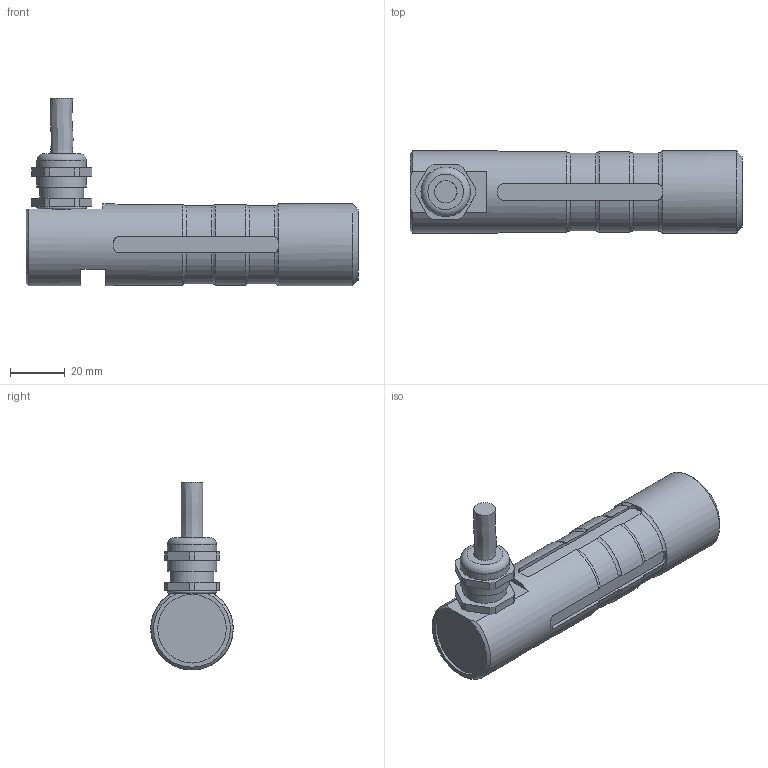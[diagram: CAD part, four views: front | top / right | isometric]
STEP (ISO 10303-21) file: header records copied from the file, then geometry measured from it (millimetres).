
FILE_DESCRIPTION(/* description */ ('Alibre Inc.'),/* implementation_level */ '2;1');
FILE_NAME(/* name */ 'export0',/* time_stamp */ '2012-11-12T08:21:17+01:00',/* author */ (''),/* organization */ (''),/* preprocessor_version */ 'ST-DEVELOPER v10',/* originating_system */ 'Alibre',/* authorisation */ '');
FILE_SCHEMA (('CONFIG_CONTROL_DESIGN'));
Length unit declared in the file: centimetre
Products named in the file (6): ID_1
Bounding box: 121 x 30 x 68.45 mm (x, y, z)
Volume: 84912.2 mm3; surface area: 17683.5 mm2
Topology: 4 solids, 4 shells, 165 faces, 434 edges, 285 vertices
Faces by surface type: plane 86, cylinder 57, torus 18, cone 3, bspline 1
Full cylindrical faces by diameter (mm): 8 x1, 14.376 x1, 16 x2, 18 x2, 25 x1, 30 x2
Entity records: 6515 total; most frequent: CARTESIAN_POINT 2312, ORIENTED_EDGE 830, DIRECTION 579, EDGE_CURVE 415, VERTEX_POINT 281, VECTOR 243, LINE 243, AXIS2_PLACEMENT_3D 211
